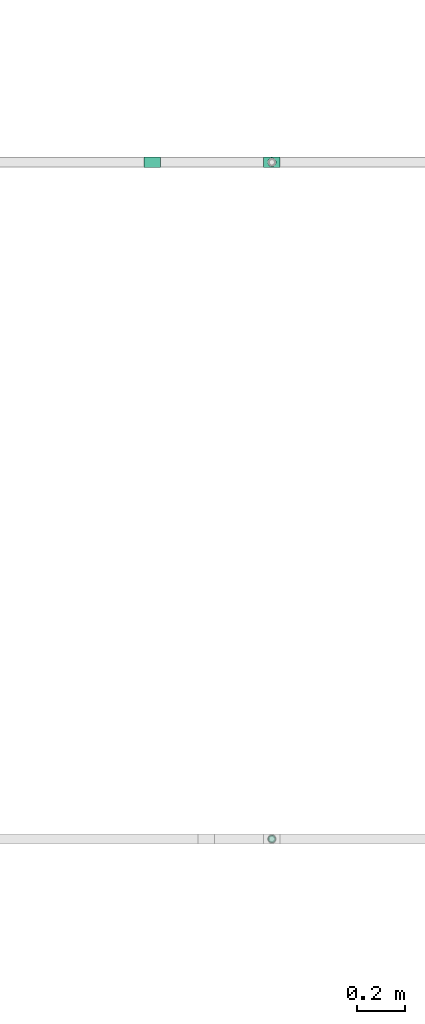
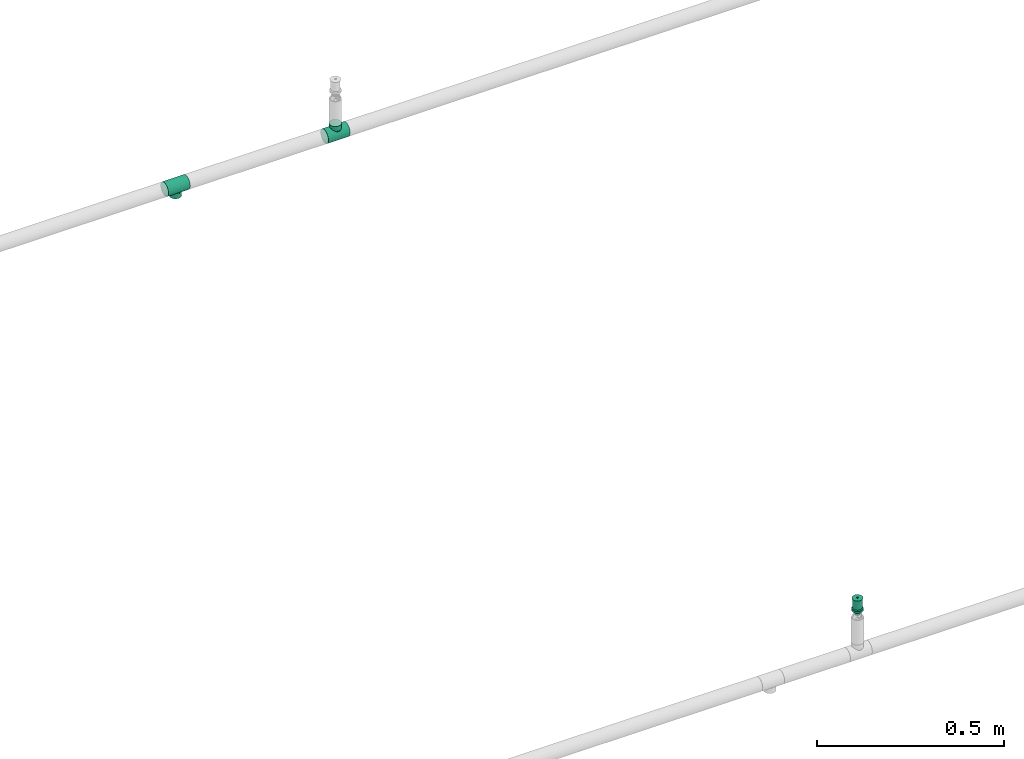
# One storey, part 59 of 94: 2 flow fittings, 1 flow terminal.
"""IFC2X3 building model written with IfcOpenShell, lengths in millimetres."""

from ifc_helpers import new_model, entity, si_unit, converted_unit, derived_unit, direction, frame, origin_with_axes, place, context, subcontext, project, spatial, open_shell, surface_model, source, transform, mapped, type_object, element, save


model = new_model("IFC2X3")

# Units and contexts
model_context = context("Model", 3, precision=0.01, world=frame((0.0, 4.29681676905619e-09, 0.0)), true_north=direction((4.01073788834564e-13, 1.0)))
plan_context = context("Plan", 3, precision=0.01, world=frame((0.0, 4.29681676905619e-09, 0.0)), true_north=direction((4.01073788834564e-13, 1.0)))
body_context = subcontext(model_context, "Body", "Model", "MODEL_VIEW")
ifc_project = project(units=[converted_unit("PLANEANGLEUNIT", "DEGREE", entity("IfcPositiveLengthMeasure", 0.0174532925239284), si_unit("PLANEANGLEUNIT", "RADIAN"), dimensions=[0, 0, 0, 0, 0, 0, 0]), si_unit("AREAUNIT", "SQUARE_METRE"), si_unit("LENGTHUNIT", "METRE", prefix="MILLI"), si_unit("MASSUNIT", "GRAM", prefix="KILO"), si_unit("POWERUNIT", "WATT"), si_unit("PRESSUREUNIT", "PASCAL"), si_unit("FORCEUNIT", "NEWTON", prefix="KILO"), si_unit("ELECTRICCURRENTUNIT", "AMPERE"), si_unit("THERMODYNAMICTEMPERATUREUNIT", "DEGREE_CELSIUS"), si_unit("TIMEUNIT", "SECOND"), si_unit("VOLUMEUNIT", "CUBIC_METRE"), derived_unit("LINEARVELOCITYUNIT", [(si_unit("LENGTHUNIT", "METRE"), 1), (si_unit("TIMEUNIT", "SECOND"), -1)]), derived_unit("VOLUMETRICFLOWRATEUNIT", [(si_unit("VOLUMEUNIT", "CUBIC_METRE"), 1), (si_unit("TIMEUNIT", "SECOND"), -1)]), derived_unit("THERMALTRANSMITTANCEUNIT", [(si_unit("POWERUNIT", "WATT"), 1), (si_unit("THERMODYNAMICTEMPERATUREUNIT", "KELVIN"), -1), (si_unit("AREAUNIT", "SQUARE_METRE"), -1)])], contexts=[model_context, plan_context])

# Site, building, storey
site_placement = place(None, frame((0.0, -4.29681676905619e-09, 0.0), z_axis=(0.0, 0.0, 1.0), x_axis=(1.0, 0.0, 0.0)))
site = spatial("IfcSite", under=ifc_project, at=site_placement, CompositionType="ELEMENT")
building_placement = place(site_placement, frame((0.0, 4.29681676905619e-09, 0.0), z_axis=(0.0, 0.0, 1.0), x_axis=(1.0, 0.0, 0.0)))
building = spatial("IfcBuilding", under=site, at=building_placement, Name="mc-building", CompositionType="ELEMENT")
storey_placement = place(building_placement, frame((0.0, 0.0, 200300.0), z_axis=(0.0, 0.0, 1.0), x_axis=(1.0, 0.0, 0.0)))
storey = spatial("IfcBuildingStorey", under=building, at=storey_placement, Name="Nivå C", CompositionType="ELEMENT", Elevation=200300.0)

# Flow fittings
pipe_fitting_type = type_object("IfcPipeFittingType", Name="magi_pipe_fe_tee_centric_90_NOR", PredefinedType="JUNCTION")
shared_shape_1 = source(origin_with_axes(), body_context, "Body", "SurfaceModel", [
    surface_model("IfcShellBasedSurfaceModel", [(-33.8, 0.0, -21.2), (-33.8, -5.48696, -20.47763), (-33.8, 5.48696, -20.47763), (-33.8, 10.6, -18.35974), (-33.8, 14.99066, -14.99066), (-33.8, -20.47763, 5.48696), (-33.8, 18.35974, -10.6), (-33.8, 10.6, 18.35974), (-33.8, -14.99066, -14.99066), (-33.8, -18.35974, -10.6), (-33.8, -10.6, -18.35974), (-33.8, -20.47763, -5.48696), (-33.8, -21.2, 0.0), (-33.8, 18.35974, 10.6), (-33.8, 20.47763, -5.48696), (-33.8, 20.47763, 5.48696), (-33.8, 21.2, 0.0), (-33.8, 14.99066, 14.99066), (-33.8, 5.48696, 20.47763), (-33.8, 0.0, 21.2), (-33.8, -18.35974, 10.6), (-33.8, -14.99066, 14.99066), (-33.8, -10.6, 18.35974), (-33.8, -5.48696, 20.47763), (33.8, 5.48696, -20.47763), (33.8, -5.48696, -20.47763), (33.8, 0.0, -21.2), (33.8, 14.99066, -14.99066), (33.8, 10.6, -18.35974), (33.8, 18.35974, -10.6), (33.8, 20.47763, -5.48696), (33.8, -21.2, 0.0), (33.8, -10.6, -18.35974), (33.8, -18.35974, -10.6), (33.8, -14.99066, -14.99066), (33.8, -20.47763, -5.48696), (33.8, -20.47763, 5.48696), (33.8, 21.2, 0.0), (33.8, 20.47763, 5.48696), (33.8, 18.35974, 10.6), (33.8, 10.6, 18.35974), (33.8, 14.99066, 14.99066), (33.8, 0.0, 21.2), (33.8, 5.48696, 20.47763), (33.8, -14.99066, 14.99066), (33.8, -18.35974, 10.6), (33.8, -10.6, 18.35974), (33.8, -5.48696, 20.47763), (16.9, -21.2, 0.0), (15.78624, -20.32327, 6.03364), (12.81343, -18.11115, 11.01935), (8.52479, -15.37862, 14.59239), (3.07939, -13.16482, 16.61708), (-16.9, -21.2, 0.0), (-15.78686, -20.32375, 6.032), (-8.52604, -15.37932, 14.59166), (-3.0848, -13.16609, 16.61608), (-12.81602, -18.11299, 11.01634), (3.07939, -13.16482, -16.61708), (12.81343, -18.11115, -11.01935), (8.52479, -15.37862, -14.59239), (15.78624, -20.32327, -6.03364), (-3.0848, -13.16609, -16.61608), (-8.52604, -15.37932, -14.59166), (-12.81602, -18.11299, -11.01634), (-15.78686, -20.32375, -6.032), (4.37404, -31.8, -16.32415), (-16.9, -31.8, 0.0), (0.0, -31.8, -16.9), (14.63583, -31.8, -8.45), (8.45, -31.8, -14.63583), (16.32415, -31.8, -4.37404), (11.9501, -31.8, -11.9501), (-11.9501, -31.8, -11.9501), (-8.45, -31.8, -14.63583), (-4.37404, -31.8, -16.32415), (-14.63583, -31.8, -8.45), (-16.32415, -31.8, -4.37404), (16.9, -31.8, 0.0), (8.45, -31.8, 14.63583), (16.32415, -31.8, 4.37404), (14.63583, -31.8, 8.45), (-8.45, -31.8, 14.63583), (11.9501, -31.8, 11.9501), (4.37404, -31.8, 16.32415), (-16.32415, -31.8, 4.37404), (-11.9501, -31.8, 11.9501), (-14.63583, -31.8, 8.45), (0.0, -31.8, 16.9), (-4.37404, -31.8, 16.32415), (-16.34343, -20.76188, 3.016), (16.34312, -20.76163, 3.01682), (-0.00271, -13.16546, 16.61658), (16.34312, -20.76163, -3.01682), (-0.00271, -13.16546, -16.61658), (-16.34343, -20.76188, -3.016)], [open_shell([[[0, 1, 2]], [[3, 2, 4]], [[5, 2, 1]], [[4, 2, 6]], [[6, 2, 7]], [[8, 9, 10]], [[1, 10, 9]], [[9, 11, 1]], [[12, 1, 11]], [[5, 1, 12]], [[13, 14, 6]], [[13, 15, 16]], [[6, 7, 13]], [[5, 7, 2]], [[17, 13, 7]], [[18, 7, 19]], [[20, 21, 5]], [[22, 5, 21]], [[23, 19, 22]], [[7, 5, 22]], [[22, 19, 7]], [[16, 14, 13]], [[24, 25, 26]], [[27, 24, 28]], [[29, 30, 24]], [[29, 24, 27]], [[31, 24, 30]], [[32, 33, 34]], [[33, 32, 25]], [[33, 31, 35]], [[31, 33, 25]], [[25, 24, 31]], [[30, 36, 31]], [[37, 38, 39]], [[37, 39, 40]], [[37, 40, 36]], [[40, 39, 41]], [[42, 40, 43]], [[36, 44, 45]], [[44, 36, 46]], [[46, 42, 47]], [[46, 36, 40]], [[40, 42, 46]], [[37, 36, 30]], [[31, 36, 48]], [[49, 48, 36]], [[36, 45, 49]], [[45, 44, 50]], [[51, 50, 44]], [[52, 51, 44]], [[44, 46, 52]], [[45, 50, 49]], [[53, 54, 5]], [[5, 12, 53]], [[54, 20, 5]], [[55, 56, 21]], [[20, 57, 21]], [[57, 20, 54]], [[21, 57, 55]], [[56, 22, 21]], [[52, 22, 56]], [[19, 47, 42]], [[23, 46, 47]], [[18, 42, 43]], [[39, 38, 15]], [[17, 40, 41]], [[13, 41, 39]], [[43, 40, 7]], [[16, 38, 37]], [[22, 46, 23]], [[23, 47, 19]], [[18, 19, 42]], [[43, 7, 18]], [[7, 40, 17]], [[13, 17, 41]], [[15, 13, 39]], [[38, 16, 15]], [[46, 22, 52]], [[6, 30, 29]], [[14, 37, 30]], [[4, 29, 27]], [[26, 25, 1]], [[2, 28, 24]], [[0, 24, 26]], [[27, 28, 3]], [[10, 25, 32]], [[16, 37, 14]], [[14, 30, 6]], [[4, 6, 29]], [[27, 3, 4]], [[3, 28, 2]], [[0, 2, 24]], [[1, 0, 26]], [[25, 10, 1]], [[32, 58, 10]], [[34, 59, 60]], [[59, 34, 33]], [[60, 58, 34]], [[34, 58, 32]], [[35, 31, 48]], [[35, 61, 33]], [[61, 35, 48]], [[33, 61, 59]], [[62, 63, 8]], [[8, 64, 9]], [[64, 8, 63]], [[62, 8, 10]], [[65, 53, 11]], [[65, 11, 9]], [[11, 53, 12]], [[65, 9, 64]], [[58, 62, 10]], [[66, 67, 68]], [[69, 66, 70]], [[69, 71, 66]], [[69, 70, 72]], [[67, 66, 71]], [[68, 73, 74]], [[74, 75, 68]], [[76, 67, 77]], [[73, 68, 76]], [[67, 76, 68]], [[71, 78, 67]], [[79, 78, 80]], [[79, 80, 81]], [[82, 67, 79]], [[79, 81, 83]], [[82, 79, 84]], [[85, 86, 87]], [[86, 85, 82]], [[82, 88, 89]], [[85, 67, 82]], [[84, 88, 82]], [[79, 67, 78]], [[85, 90, 67]], [[57, 87, 86]], [[85, 87, 54]], [[86, 82, 55]], [[85, 54, 90]], [[90, 53, 67]], [[54, 87, 57]], [[91, 49, 80]], [[55, 89, 56]], [[55, 57, 86]], [[88, 52, 92]], [[55, 82, 89]], [[52, 88, 84]], [[79, 51, 84]], [[50, 83, 81]], [[83, 51, 79]], [[81, 80, 49]], [[83, 50, 51]], [[51, 52, 84]], [[78, 91, 80]], [[49, 50, 81]], [[91, 78, 48]], [[88, 56, 89]], [[92, 56, 88]], [[71, 93, 78]], [[59, 69, 72]], [[71, 69, 61]], [[72, 70, 60]], [[93, 48, 78]], [[61, 69, 59]], [[60, 66, 58]], [[60, 59, 72]], [[68, 62, 94]], [[60, 70, 66]], [[95, 67, 53]], [[95, 65, 77]], [[71, 61, 93]], [[75, 62, 68]], [[65, 76, 77]], [[73, 76, 64]], [[68, 58, 66]], [[75, 63, 62]], [[63, 75, 74]], [[74, 73, 63]], [[63, 73, 64]], [[64, 76, 65]], [[67, 95, 77]], [[94, 58, 68]]])]),
])
for number, where, z_axis, x_axis, name in (
    (1, (524502.26879, 416298.62756, 2850.0), (0.0, -1.0, 0.0), (-1.0, 0.0, 0.0), "magi_pipe_fe_tee_centric_90_NOR"),
    (2, (524007.26147, 416298.62756, 2850.0), (0.0, 1.0, 0.0), (-1.0, 0.0, 0.0), "magi_pipe_fe_tee_centric_90_NOR"),
):
    element("IfcFlowFitting", number, at=place(storey_placement, frame(where, z_axis=z_axis, x_axis=x_axis)), inside=storey, type_object=pipe_fitting_type, Name=name, context=body_context, shape_type="MappedRepresentation", body=[
        mapped(shared_shape_1, transform((0.0, 0.0, 0.0), scale=1.0)),
    ])

# Flow terminal
fire_suppression_terminal_type = type_object("IfcFireSuppressionTerminalType", Name="68DGR-STD-STÅENDE", PredefinedType="NOTDEFINED")
shared_shape_2 = source(origin_with_axes(), body_context, "Body", "SurfaceModel", [
    surface_model("IfcShellBasedSurfaceModel", [(12.55704, 3.36465, 21.14766), (13.0, 0.0, 21.14766), (12.55704, -3.36465, 21.14766), (-12.55704, -3.36465, 21.14766), (-11.25833, -6.5, 21.14766), (-11.25833, -6.5, 51.0), (3.36465, -12.55704, 51.0), (3.36465, -12.55704, 21.14766), (6.5, -11.25833, 21.14766), (9.19239, -9.19239, 21.14766), (11.25833, -6.5, 21.14766), (9.19239, -9.19239, 51.0), (6.5, -11.25833, 51.0), (11.25833, -6.5, 51.0), (12.55704, -3.36465, 51.0), (13.0, 0.0, 51.0), (9.19239, 9.19239, 51.0), (11.25833, 6.5, 21.14766), (9.19239, 9.19239, 21.14766), (11.25833, 6.5, 51.0), (12.55704, 3.36465, 51.0), (6.5, 11.25833, 51.0), (6.5, 11.25833, 21.14766), (3.36465, 12.55704, 21.14766), (3.36465, 12.55704, 51.0), (-11.25833, 6.5, 51.0), (-11.25833, 6.5, 21.14766), (-12.55704, 3.36465, 21.14766), (0.0, -2.5, 51.0), (-2.5, 0.0, 51.0), (0.0, 2.5, 51.0), (2.5, 0.0, 51.0), (11.31371, 11.31371, 53.0), (-11.31371, 11.31371, 53.0), (-11.31371, -11.31371, 53.0), (11.31371, -11.31371, 53.0), (1.62635, 1.62635, 51.0), (2.16506, 1.25, 51.0), (1.99186, 1.15, 51.0), (-1.76777, 1.76777, 51.0), (-1.25, 2.16506, 51.0), (-1.62635, 1.62635, 51.0), (1.99186, -1.15, 51.0), (2.16506, -1.25, 51.0), (1.62635, -1.62635, 51.0), (-1.62635, -1.62635, 51.0), (-1.25, -2.16506, 51.0), (-1.76777, -1.76777, 51.0), (0.0, 7.3, 0.0), (1.94114, 7.24444, 0.0), (1.88938, 7.05126, 0.0), (5.16188, 5.16188, 0.0), (6.49519, 3.75, 0.0), (6.32199, 3.65, 0.0), (-5.3033, 5.3033, 0.0), (-3.75, 6.49519, 0.0), (-5.16188, 5.16188, 0.0), (6.32199, -3.65, 0.0), (6.49519, -3.75, 0.0), (5.16188, -5.16188, 0.0), (1.88938, -7.05126, 0.0), (1.94114, -7.24444, 0.0), (0.0, -7.3, 0.0), (-5.16188, -5.16188, 0.0), (-3.75, -6.49519, 0.0), (-5.3033, -5.3033, 0.0), (-3.36465, 12.55704, 51.0), (-6.5, 11.25833, 51.0), (0.0, 13.0, 51.0), (-9.19239, 9.19239, 51.0), (0.0, -13.0, 51.0), (-9.19239, -9.19239, 51.0), (-12.55704, -3.36465, 51.0), (-6.5, -11.25833, 51.0), (-3.36465, -12.55704, 51.0), (-7.5, 0.0, -0.1), (-7.24444, 1.94114, 0.1), (-7.24444, 1.94114, -0.1), (-6.49519, 3.75, 0.1), (-6.49519, 3.75, -0.1), (-3.75, 6.49519, -0.1), (-5.3033, 5.3033, -0.1), (-3.75, 6.49519, 0.1), (-5.3033, 5.3033, 0.1), (-1.94114, 7.24444, -0.1), (-1.94114, 7.24444, 0.1), (-7.5, 0.0, 0.1), (0.0, 7.5, 0.1), (0.0, 7.5, -0.1), (1.94114, 7.24444, 0.1), (1.94114, 7.24444, -0.1), (3.75, 6.49519, 0.1), (3.75, 6.49519, -0.1), (6.49519, 3.75, -0.1), (5.3033, 5.3033, -0.1), (6.49519, 3.75, 0.1), (5.3033, 5.3033, 0.1), (7.24444, 1.94114, -0.1), (7.24444, 1.94114, 0.1), (7.5, 0.0, 0.1), (7.5, 0.0, -0.1), (-7.24444, -1.94114, 0.1), (7.24444, -1.94114, 0.1), (5.3033, -5.3033, 0.1), (6.49519, -3.75, 0.1), (-6.49519, -3.75, 0.1), (0.0, -7.5, 0.1), (1.94114, -7.24444, 0.1), (3.75, -6.49519, 0.1), (-3.75, -6.49519, 0.1), (-1.94114, -7.24444, 0.1), (-5.3033, -5.3033, 0.1), (0.0, -7.5, -0.1), (-6.49519, -3.75, -0.1), (1.94114, -7.24444, -0.1), (3.75, -6.49519, -0.1), (5.3033, -5.3033, -0.1), (7.24444, -1.94114, -0.1), (6.49519, -3.75, -0.1), (-3.75, -6.49519, -0.1), (-5.3033, -5.3033, -0.1), (-1.94114, -7.24444, -0.1), (-7.24444, -1.94114, -0.1), (16.0, 0.0, 53.0), (0.0, -16.0, 53.0), (-16.0, 0.0, 53.0), (0.0, 16.0, 53.0), (0.64705, 2.41481, 57.0), (0.0, 2.5, 57.0), (1.25, 2.16506, 57.0), (-2.5, 0.0, 57.0), (1.76777, 1.76777, 57.0), (2.41481, 0.64705, 57.0), (2.16506, 1.25, 57.0), (-0.64705, 2.41481, 57.0), (-1.25, 2.16506, 57.0), (-1.76777, 1.76777, 57.0), (-2.16506, 1.25, 57.0), (-2.41481, 0.64705, 57.0), (2.5, 0.0, 57.0), (1.76777, -1.76777, 57.0), (2.16506, -1.25, 57.0), (2.41481, -0.64705, 57.0), (-2.41481, -0.64705, 57.0), (0.64705, -2.41481, 57.0), (1.25, -2.16506, 57.0), (0.0, -2.5, 57.0), (-1.76777, -1.76777, 57.0), (-2.16506, -1.25, 57.0), (-1.25, -2.16506, 57.0), (-0.64705, -2.41481, 57.0), (1.15, -1.99186, 51.0), (1.76777, -1.76777, 51.0), (1.25, -2.16506, 51.0), (0.59528, -2.22163, 51.0), (0.0, -2.3, 51.0), (0.64705, -2.41481, 51.0), (2.22163, -0.59528, 51.0), (2.3, 0.0, 51.0), (2.41481, -0.64705, 51.0), (-0.64705, -2.41481, 51.0), (-0.59528, -2.22163, 51.0), (-1.15, -1.99186, 51.0), (-2.16506, -1.25, 51.0), (-1.99186, -1.15, 51.0), (-2.22163, -0.59528, 51.0), (-2.3, 0.0, 51.0), (-2.41481, -0.64705, 51.0), (2.22163, 0.59528, 51.0), (2.41481, 0.64705, 51.0), (1.76777, 1.76777, 51.0), (1.15, 1.99186, 51.0), (1.25, 2.16506, 51.0), (0.59528, 2.22163, 51.0), (0.0, 2.3, 51.0), (0.64705, 2.41481, 51.0), (-1.99186, 1.15, 51.0), (-2.16506, 1.25, 51.0), (-2.41481, 0.64705, 51.0), (-2.22163, 0.59528, 51.0), (-0.64705, 2.41481, 51.0), (-0.59528, 2.22163, 51.0), (-1.15, 1.99186, 51.0), (-2.22163, 0.59528, 56.8), (-1.99186, 1.15, 56.8), (-1.15, 1.99186, 56.8), (-1.62635, 1.62635, 56.8), (-0.59528, 2.22163, 56.8), (-2.3, 0.0, 56.8), (0.0, 2.3, 56.8), (0.59528, 2.22163, 56.8), (1.15, 1.99186, 56.8), (1.99186, 1.15, 56.8), (1.62635, 1.62635, 56.8), (2.22163, 0.59528, 56.8), (2.3, 0.0, 56.8), (2.22163, -0.59528, 56.8), (1.99186, -1.15, 56.8), (1.62635, -1.62635, 56.8), (1.15, -1.99186, 56.8), (0.59528, -2.22163, 56.8), (0.0, -2.3, 56.8), (-1.99186, -1.15, 56.8), (-2.22163, -0.59528, 56.8), (-1.62635, -1.62635, 56.8), (-0.59528, -2.22163, 56.8), (-1.15, -1.99186, 56.8), (8.0, -13.85641, 13.0), (4.1411, -15.45481, 13.0), (0.0, -16.0, 13.0), (-4.1411, -15.45481, 13.0), (15.45481, -4.1411, 13.0), (13.85641, -8.0, 13.0), (11.31371, -11.31371, 13.0), (-16.0, 0.0, 13.0), (-8.0, -13.85641, 13.0), (-11.31371, -11.31371, 13.0), (-13.85641, -8.0, 13.0), (-15.45481, -4.1411, 13.0), (15.45481, 4.1411, 13.0), (4.1411, 15.45481, 13.0), (13.85641, 8.0, 13.0), (8.0, 13.85641, 13.0), (11.31371, 11.31371, 13.0), (-15.45481, 4.1411, 13.0), (-11.31371, 11.31371, 13.0), (-8.0, 13.85641, 13.0), (-13.85641, 8.0, 13.0), (-4.1411, 15.45481, 13.0), (0.0, 16.0, 13.0), (16.0, 0.0, 13.0), (7.05126, 1.88938, 12.8), (1.88938, 7.05126, 12.8), (3.65, 6.32199, 12.8), (6.32199, 3.65, 12.8), (5.16188, 5.16188, 12.8), (7.3, 0.0, 12.8), (0.0, 7.3, 12.8), (-3.65, 6.32199, 12.8), (-1.88938, 7.05126, 12.8), (-5.16188, 5.16188, 12.8), (-7.05126, 1.88938, 12.8), (-6.32199, 3.65, 12.8), (7.05126, -1.88938, 12.8), (0.0, -7.3, 12.8), (6.32199, -3.65, 12.8), (3.65, -6.32199, 12.8), (5.16188, -5.16188, 12.8), (1.88938, -7.05126, 12.8), (-7.3, 0.0, 12.8), (-6.32199, -3.65, 12.8), (-7.05126, -1.88938, 12.8), (-1.88938, -7.05126, 12.8), (-5.16188, -5.16188, 12.8), (-3.65, -6.32199, 12.8), (-7.05126, 1.88938, 0.0), (-7.3, 0.0, 0.0), (-6.32199, 3.65, 0.0), (-3.65, 6.32199, 0.0), (-1.88938, 7.05126, 0.0), (3.65, 6.32199, 0.0), (7.05126, 1.88938, 0.0), (7.3, 0.0, 0.0), (3.75, 6.49519, 13.0), (1.94114, 7.24444, 13.0), (7.5, 0.0, 13.0), (5.3033, 5.3033, 13.0), (7.24444, 1.94114, 13.0), (6.49519, 3.75, 13.0), (-5.3033, 5.3033, 13.0), (-7.24444, -1.94114, 13.0), (-1.94114, 7.24444, 13.0), (-3.75, 6.49519, 13.0), (0.0, 7.5, 13.0), (-6.49519, 3.75, 13.0), (-7.24444, 1.94114, 13.0), (7.24444, -1.94114, 13.0), (5.3033, -5.3033, 13.0), (6.49519, -3.75, 13.0), (-6.49519, -3.75, 13.0), (0.0, -7.5, 13.0), (1.94114, -7.24444, 13.0), (3.75, -6.49519, 13.0), (-7.5, 0.0, 13.0), (-3.75, -6.49519, 13.0), (-1.94114, -7.24444, 13.0), (-5.3033, -5.3033, 13.0), (3.65, -6.32199, 0.0), (5.3033, -5.3033, 0.0), (3.75, -6.49519, 0.0), (0.0, -7.5, 0.0), (7.05126, -1.88938, 0.0), (7.24444, -1.94114, 0.0), (7.5, 0.0, 0.0), (-1.94114, -7.24444, 0.0), (-1.88938, -7.05126, 0.0), (-3.65, -6.32199, 0.0), (-6.49519, -3.75, 0.0), (-6.32199, -3.65, 0.0), (-7.05126, -1.88938, 0.0), (-7.24444, -1.94114, 0.0), (-7.5, 0.0, 0.0), (7.24444, 1.94114, 0.0), (5.3033, 5.3033, 0.0), (3.75, 6.49519, 0.0), (0.0, 7.5, 0.0), (-6.49519, 3.75, 0.0), (-7.24444, 1.94114, 0.0), (-1.94114, 7.24444, 0.0), (-12.55704, 3.36465, 51.0), (-13.0, 0.0, 51.0), (0.0, -13.0, 21.14766), (-3.36465, -12.55704, 21.14766), (-6.5, -11.25833, 21.14766), (-9.19239, -9.19239, 21.14766), (-13.0, 0.0, 21.14766), (-9.19239, 9.19239, 21.14766), (-6.5, 11.25833, 21.14766), (-3.36465, 12.55704, 21.14766), (0.0, 13.0, 21.14766), (11.31371, 11.31371, 19.0), (8.0, 13.85641, 19.0), (4.1411, 15.45481, 19.0), (-8.0, 13.85641, 19.0), (16.0, 0.0, 19.0), (15.45481, 4.1411, 19.0), (13.85641, 8.0, 19.0), (-4.1411, 15.45481, 19.0), (0.0, 16.0, 19.0), (-11.31371, 11.31371, 19.0), (-13.85641, 8.0, 19.0), (-15.45481, 4.1411, 19.0), (15.45481, -4.1411, 19.0), (11.31371, -11.31371, 19.0), (13.85641, -8.0, 19.0), (-16.0, 0.0, 19.0), (0.0, -16.0, 19.0), (4.1411, -15.45481, 19.0), (8.0, -13.85641, 19.0), (-13.85641, -8.0, 19.0), (-11.31371, -11.31371, 19.0), (-15.45481, -4.1411, 19.0), (-8.0, -13.85641, 19.0), (-4.1411, -15.45481, 19.0)], [open_shell([[[0, 1, 2]], [[3, 4, 5]], [[6, 7, 8]], [[9, 10, 11]], [[9, 11, 12]], [[10, 13, 11]], [[14, 13, 2]], [[1, 15, 14]], [[16, 17, 18]], [[0, 19, 20]], [[20, 15, 1]], [[21, 16, 18]], [[22, 23, 24]], [[16, 19, 17]], [[25, 26, 27]], [[28, 29, 30]], [[30, 31, 28]], [[31, 30, 32]], [[33, 30, 29]], [[29, 28, 34]], [[35, 28, 31]], [[36, 37, 38]], [[39, 40, 41]], [[42, 43, 44]], [[45, 46, 47]], [[48, 49, 50]], [[51, 52, 53]], [[54, 55, 56]], [[57, 58, 59]], [[60, 61, 62]], [[63, 64, 65]], [[66, 67, 68]], [[67, 24, 68]], [[69, 25, 67]], [[15, 20, 14]], [[70, 6, 12]], [[5, 71, 72]], [[73, 74, 71]], [[72, 71, 74]], [[75, 76, 77]], [[77, 78, 79]], [[80, 81, 82]], [[83, 81, 79]], [[84, 80, 85]], [[76, 78, 77]], [[75, 86, 76]], [[80, 82, 85]], [[82, 81, 83]], [[79, 78, 83]], [[84, 85, 87]], [[87, 88, 84]], [[88, 89, 90]], [[90, 91, 92]], [[93, 94, 95]], [[96, 94, 92]], [[97, 93, 98]], [[91, 96, 92]], [[90, 89, 91]], [[97, 98, 99]], [[98, 93, 95]], [[94, 96, 95]], [[97, 99, 100]], [[87, 89, 88]], [[91, 89, 99]], [[96, 91, 98]], [[91, 99, 98]], [[95, 96, 98]], [[89, 83, 101]], [[85, 82, 87]], [[83, 87, 82]], [[78, 76, 83]], [[89, 87, 83]], [[76, 101, 83]], [[102, 99, 89]], [[103, 104, 102]], [[89, 105, 103]], [[103, 106, 107]], [[108, 103, 107]], [[106, 103, 105]], [[89, 101, 105]], [[101, 76, 86]], [[109, 110, 111]], [[105, 111, 110]], [[106, 105, 110]], [[103, 102, 89]], [[112, 113, 114]], [[115, 114, 116]], [[117, 118, 116]], [[113, 116, 114]], [[116, 113, 117]], [[119, 120, 121]], [[113, 121, 120]], [[121, 113, 112]], [[113, 122, 117]], [[75, 77, 122]], [[100, 117, 122]], [[100, 81, 97]], [[93, 97, 90]], [[90, 92, 94]], [[93, 90, 94]], [[90, 97, 81]], [[79, 81, 77]], [[77, 81, 122]], [[84, 88, 80]], [[81, 80, 88]], [[81, 88, 90]], [[100, 122, 81]], [[100, 102, 117]], [[117, 104, 118]], [[115, 116, 108]], [[103, 116, 118]], [[114, 115, 107]], [[102, 104, 117]], [[100, 99, 102]], [[115, 108, 107]], [[108, 116, 103]], [[118, 104, 103]], [[114, 107, 106]], [[106, 112, 114]], [[112, 110, 121]], [[121, 109, 119]], [[113, 120, 105]], [[111, 120, 119]], [[122, 113, 101]], [[109, 111, 119]], [[121, 110, 109]], [[122, 101, 86]], [[101, 113, 105]], [[120, 111, 105]], [[122, 86, 75]], [[106, 110, 112]], [[31, 123, 35]], [[35, 124, 28]], [[124, 34, 28]], [[29, 34, 125]], [[33, 32, 126]], [[33, 125, 124]], [[124, 32, 33]], [[124, 35, 123]], [[124, 125, 34]], [[123, 32, 124]], [[29, 125, 33]], [[33, 126, 30]], [[126, 32, 30]], [[31, 32, 123]], [[127, 128, 129]], [[129, 130, 131]], [[132, 131, 130]], [[133, 131, 132]], [[130, 129, 128]], [[134, 135, 128]], [[136, 128, 135]], [[137, 138, 136]], [[128, 136, 130]], [[138, 130, 136]], [[139, 132, 130]], [[140, 141, 142]], [[143, 140, 139]], [[144, 140, 143]], [[145, 140, 144]], [[146, 144, 147]], [[139, 130, 143]], [[143, 148, 144]], [[149, 150, 147]], [[144, 148, 147]], [[146, 147, 150]], [[140, 142, 139]], [[151, 152, 153]], [[154, 151, 153]], [[155, 154, 156]], [[153, 156, 154]], [[28, 155, 156]], [[44, 152, 151]], [[157, 158, 159]], [[31, 159, 158]], [[43, 157, 159]], [[152, 44, 43]], [[157, 43, 42]], [[160, 161, 28]], [[161, 155, 28]], [[162, 161, 160]], [[160, 46, 162]], [[162, 46, 45]], [[47, 163, 164]], [[165, 164, 163]], [[45, 47, 164]], [[166, 165, 167]], [[163, 167, 165]], [[29, 166, 167]], [[168, 169, 31]], [[38, 169, 168]], [[169, 38, 37]], [[170, 37, 36]], [[171, 172, 170]], [[173, 172, 171]], [[174, 175, 173]], [[172, 173, 175]], [[30, 175, 174]], [[170, 36, 171]], [[39, 176, 177]], [[41, 176, 39]], [[178, 177, 176]], [[178, 179, 29]], [[176, 179, 178]], [[179, 166, 29]], [[180, 30, 181]], [[182, 180, 181]], [[182, 41, 40]], [[180, 182, 40]], [[181, 30, 174]], [[31, 158, 168]], [[29, 138, 178]], [[178, 137, 177]], [[40, 39, 135]], [[136, 39, 177]], [[180, 40, 134]], [[138, 137, 178]], [[29, 130, 138]], [[40, 135, 134]], [[135, 39, 136]], [[177, 137, 136]], [[180, 134, 128]], [[128, 30, 180]], [[30, 127, 175]], [[175, 129, 172]], [[37, 170, 133]], [[131, 170, 172]], [[169, 37, 132]], [[129, 131, 172]], [[175, 127, 129]], [[169, 132, 139]], [[132, 37, 133]], [[170, 131, 133]], [[169, 139, 31]], [[128, 127, 30]], [[179, 183, 166]], [[176, 184, 179]], [[185, 41, 182]], [[176, 41, 186]], [[187, 182, 181]], [[179, 184, 183]], [[183, 188, 166]], [[187, 185, 182]], [[186, 41, 185]], [[186, 184, 176]], [[189, 187, 181]], [[181, 174, 189]], [[173, 190, 174]], [[171, 191, 173]], [[192, 36, 38]], [[171, 36, 193]], [[194, 38, 168]], [[171, 193, 191]], [[191, 190, 173]], [[195, 194, 168]], [[192, 38, 194]], [[192, 193, 36]], [[158, 195, 168]], [[174, 190, 189]], [[31, 142, 159]], [[159, 141, 43]], [[153, 152, 145]], [[140, 152, 43]], [[156, 153, 144]], [[142, 141, 159]], [[31, 139, 142]], [[153, 145, 144]], [[145, 152, 140]], [[43, 141, 140]], [[156, 144, 146]], [[146, 28, 156]], [[28, 150, 160]], [[160, 149, 46]], [[163, 47, 148]], [[147, 47, 46]], [[167, 163, 143]], [[149, 147, 46]], [[160, 150, 149]], [[167, 143, 130]], [[143, 163, 148]], [[47, 147, 148]], [[167, 130, 29]], [[146, 150, 28]], [[190, 191, 193]], [[190, 193, 195]], [[194, 195, 193]], [[194, 193, 192]], [[190, 195, 186]], [[189, 185, 187]], [[185, 189, 186]], [[186, 183, 184]], [[186, 189, 190]], [[186, 196, 183]], [[186, 195, 196]], [[196, 197, 198]], [[196, 198, 199]], [[199, 200, 201]], [[199, 201, 196]], [[196, 201, 202]], [[188, 202, 203]], [[183, 202, 188]], [[204, 205, 206]], [[205, 204, 202]], [[201, 205, 202]], [[202, 183, 196]], [[157, 196, 158]], [[42, 197, 157]], [[199, 44, 151]], [[42, 44, 198]], [[200, 151, 154]], [[157, 197, 196]], [[196, 195, 158]], [[200, 199, 151]], [[198, 44, 199]], [[198, 197, 42]], [[201, 200, 154]], [[154, 155, 201]], [[161, 205, 155]], [[162, 206, 161]], [[202, 45, 164]], [[162, 45, 204]], [[203, 164, 165]], [[162, 204, 206]], [[206, 205, 161]], [[188, 203, 165]], [[202, 164, 203]], [[202, 204, 45]], [[166, 188, 165]], [[155, 205, 201]], [[207, 208, 209]], [[207, 209, 210]], [[211, 212, 213]], [[213, 207, 214]], [[211, 213, 214]], [[215, 216, 210]], [[217, 210, 216]], [[217, 218, 210]], [[218, 207, 210]], [[218, 214, 207]], [[214, 219, 211]], [[220, 219, 214]], [[221, 219, 220]], [[220, 222, 223]], [[221, 220, 223]], [[214, 224, 220]], [[225, 226, 227]], [[224, 227, 226]], [[228, 229, 226]], [[220, 224, 226]], [[226, 229, 220]], [[219, 230, 211]], [[231, 232, 233]], [[234, 233, 235]], [[231, 236, 232]], [[231, 233, 234]], [[232, 236, 237]], [[237, 238, 239]], [[238, 237, 240]], [[240, 241, 242]], [[240, 237, 236]], [[236, 241, 240]], [[236, 243, 241]], [[244, 243, 245]], [[246, 245, 247]], [[246, 248, 244]], [[246, 244, 245]], [[243, 244, 249]], [[249, 250, 251]], [[250, 249, 252]], [[253, 252, 254]], [[252, 253, 250]], [[249, 244, 252]], [[243, 249, 241]], [[255, 241, 256]], [[257, 242, 255]], [[238, 56, 258]], [[257, 56, 240]], [[239, 258, 259]], [[255, 242, 241]], [[241, 249, 256]], [[239, 238, 258]], [[240, 56, 238]], [[240, 242, 257]], [[237, 239, 259]], [[259, 48, 237]], [[50, 232, 48]], [[260, 233, 50]], [[234, 51, 53]], [[260, 51, 235]], [[231, 53, 261]], [[260, 235, 233]], [[233, 232, 50]], [[236, 231, 261]], [[234, 53, 231]], [[234, 235, 51]], [[262, 236, 261]], [[48, 232, 237]], [[263, 264, 265]], [[266, 263, 267]], [[263, 265, 267]], [[268, 266, 267]], [[264, 269, 270]], [[271, 272, 273]], [[269, 273, 272]], [[274, 275, 269]], [[264, 273, 269]], [[275, 270, 269]], [[276, 265, 264]], [[277, 278, 276]], [[264, 279, 277]], [[277, 280, 281]], [[282, 277, 281]], [[280, 277, 279]], [[264, 270, 279]], [[270, 275, 283]], [[284, 285, 286]], [[279, 286, 285]], [[280, 279, 285]], [[277, 276, 264]], [[287, 288, 289]], [[60, 287, 289]], [[290, 62, 61]], [[289, 61, 60]], [[59, 288, 287]], [[291, 262, 292]], [[293, 292, 262]], [[58, 291, 292]], [[288, 59, 58]], [[291, 58, 57]], [[294, 295, 290]], [[296, 295, 294]], [[294, 64, 296]], [[64, 63, 296]], [[295, 62, 290]], [[65, 297, 298]], [[299, 298, 297]], [[63, 65, 298]], [[256, 299, 300]], [[297, 300, 299]], [[301, 256, 300]], [[261, 302, 293]], [[53, 302, 261]], [[302, 53, 52]], [[303, 52, 51]], [[260, 304, 303]], [[50, 304, 260]], [[304, 50, 49]], [[305, 49, 48]], [[303, 51, 260]], [[54, 257, 306]], [[56, 257, 54]], [[307, 306, 257]], [[307, 255, 301]], [[257, 255, 307]], [[255, 256, 301]], [[308, 305, 259]], [[258, 308, 259]], [[55, 258, 56]], [[308, 258, 55]], [[259, 305, 48]], [[293, 262, 261]], [[301, 275, 307]], [[307, 274, 306]], [[55, 54, 272]], [[269, 54, 306]], [[308, 55, 271]], [[275, 274, 307]], [[301, 283, 275]], [[55, 272, 271]], [[272, 54, 269]], [[306, 274, 269]], [[308, 271, 273]], [[273, 305, 308]], [[305, 264, 49]], [[49, 263, 304]], [[52, 303, 268]], [[266, 303, 304]], [[302, 52, 267]], [[263, 266, 304]], [[49, 264, 263]], [[302, 267, 265]], [[267, 52, 268]], [[303, 266, 268]], [[302, 265, 293]], [[273, 264, 305]], [[293, 276, 292]], [[292, 278, 58]], [[289, 288, 282]], [[277, 288, 58]], [[61, 289, 281]], [[276, 278, 292]], [[293, 265, 276]], [[289, 282, 281]], [[282, 288, 277]], [[58, 278, 277]], [[61, 281, 280]], [[280, 290, 61]], [[290, 285, 294]], [[294, 284, 64]], [[297, 65, 279]], [[286, 65, 64]], [[300, 297, 270]], [[284, 286, 64]], [[294, 285, 284]], [[300, 270, 283]], [[270, 297, 279]], [[65, 286, 279]], [[300, 283, 301]], [[280, 285, 290]], [[291, 243, 262]], [[57, 245, 291]], [[246, 59, 287]], [[57, 59, 247]], [[248, 287, 60]], [[291, 245, 243]], [[243, 236, 262]], [[248, 246, 287]], [[247, 59, 246]], [[247, 245, 57]], [[244, 248, 60]], [[60, 62, 244]], [[295, 252, 62]], [[296, 254, 295]], [[250, 63, 298]], [[296, 63, 253]], [[251, 298, 299]], [[296, 253, 254]], [[254, 252, 295]], [[249, 251, 299]], [[250, 298, 251]], [[250, 253, 63]], [[256, 249, 299]], [[62, 252, 244]], [[16, 21, 24]], [[20, 16, 24]], [[24, 67, 72]], [[19, 16, 20]], [[24, 72, 20]], [[25, 72, 67]], [[309, 310, 25]], [[11, 13, 14]], [[72, 11, 20]], [[74, 12, 11]], [[12, 74, 70]], [[72, 25, 310]], [[72, 74, 11]], [[11, 14, 20]], [[8, 7, 311]], [[8, 311, 312]], [[2, 10, 9]], [[3, 9, 8]], [[3, 26, 9]], [[313, 314, 312]], [[3, 312, 314]], [[4, 3, 314]], [[3, 8, 312]], [[315, 26, 3]], [[2, 9, 26]], [[0, 2, 26]], [[17, 0, 18]], [[23, 22, 18]], [[0, 23, 18]], [[23, 0, 26]], [[316, 317, 26]], [[26, 315, 27]], [[318, 319, 317]], [[23, 26, 317]], [[23, 317, 319]], [[316, 26, 25]], [[318, 317, 67]], [[69, 317, 316]], [[319, 318, 66]], [[310, 309, 315]], [[27, 315, 309]], [[25, 27, 309]], [[25, 69, 316]], [[317, 69, 67]], [[67, 66, 318]], [[66, 68, 319]], [[22, 21, 18]], [[0, 17, 19]], [[1, 0, 20]], [[68, 24, 23]], [[24, 21, 22]], [[319, 68, 23]], [[1, 14, 2]], [[2, 13, 10]], [[6, 311, 7]], [[6, 8, 12]], [[12, 8, 9]], [[6, 70, 311]], [[313, 312, 74]], [[313, 73, 314]], [[71, 4, 314]], [[315, 3, 72]], [[70, 74, 312]], [[74, 73, 313]], [[73, 71, 314]], [[71, 5, 4]], [[3, 5, 72]], [[72, 310, 315]], [[311, 70, 312]], [[320, 321, 322]], [[320, 322, 323]], [[320, 324, 325]], [[326, 320, 325]], [[324, 320, 323]], [[327, 323, 328]], [[323, 322, 328]], [[329, 330, 323]], [[331, 323, 330]], [[323, 331, 324]], [[331, 332, 324]], [[333, 334, 332]], [[335, 333, 331]], [[336, 337, 338]], [[335, 338, 333]], [[338, 335, 336]], [[339, 340, 341]], [[335, 341, 340]], [[342, 343, 340]], [[335, 340, 343]], [[343, 336, 335]], [[332, 331, 333]], [[214, 331, 224]], [[224, 330, 227]], [[226, 225, 323]], [[329, 225, 227]], [[228, 226, 327]], [[331, 330, 224]], [[214, 335, 331]], [[226, 323, 327]], [[323, 225, 329]], [[227, 330, 329]], [[228, 327, 328]], [[328, 229, 228]], [[229, 322, 220]], [[220, 321, 222]], [[221, 223, 326]], [[320, 223, 222]], [[219, 221, 325]], [[321, 320, 222]], [[220, 322, 321]], [[219, 325, 324]], [[325, 221, 326]], [[223, 320, 326]], [[219, 324, 230]], [[328, 322, 229]], [[230, 332, 211]], [[211, 334, 212]], [[207, 213, 338]], [[333, 213, 212]], [[208, 207, 337]], [[332, 334, 211]], [[230, 324, 332]], [[207, 338, 337]], [[338, 213, 333]], [[212, 334, 333]], [[208, 337, 336]], [[336, 209, 208]], [[209, 343, 210]], [[210, 342, 215]], [[217, 216, 339]], [[340, 216, 215]], [[218, 217, 341]], [[342, 340, 215]], [[210, 343, 342]], [[218, 341, 335]], [[341, 217, 339]], [[216, 340, 339]], [[218, 335, 214]], [[336, 343, 209]]])]),
])
flow_terminal_placement = place(storey_placement, frame((524502.26879, 413500.1625, 2972.0), z_axis=(0.0, 0.0, 1.0), x_axis=(-1.0, 0.0, 0.0)))
element("IfcFlowTerminal", 3, at=flow_terminal_placement, inside=storey, type_object=fire_suppression_terminal_type, Name="68DGR-STD-STÅENDE", context=body_context, shape_type="MappedRepresentation", body=[
    mapped(shared_shape_2, transform((0.0, 0.0, 0.0), scale=1.0)),
])

save(model, "model.ifc")
